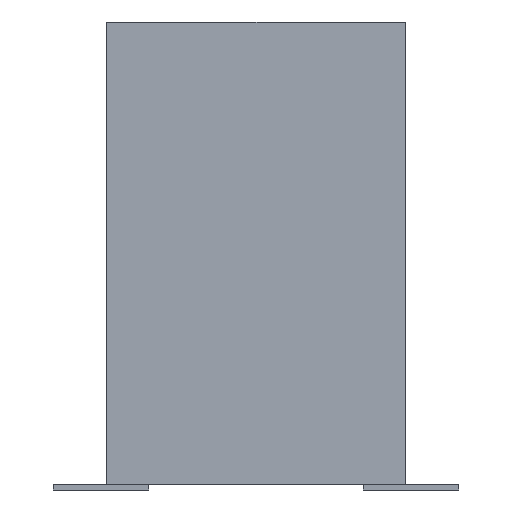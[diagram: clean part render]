
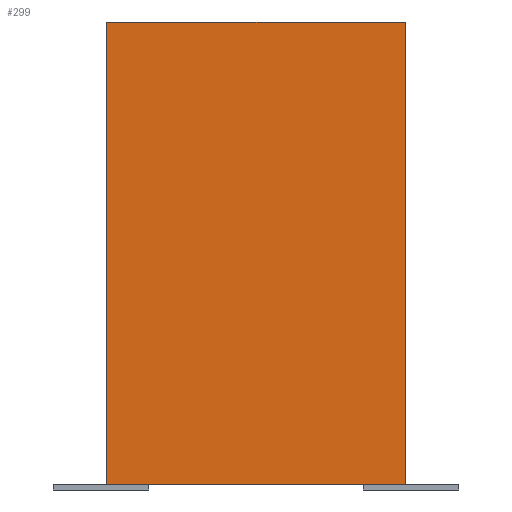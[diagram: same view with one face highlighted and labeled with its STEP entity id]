
A CAD part, left-side view. The second image highlights one B-rep face of the part: STEP entity #299.
In plain terms, the highlighted planar face has unit normal (-1, 0, 0).
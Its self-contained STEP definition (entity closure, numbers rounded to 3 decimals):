
#36 = EDGE_CURVE('',#37,#39,#41,.T.);
#37 = VERTEX_POINT('',#38);
#38 = CARTESIAN_POINT('',(-6.6,-2.5,0.));
#39 = VERTEX_POINT('',#40);
#40 = CARTESIAN_POINT('',(-6.6,-2.5,7.75));
#41 = SURFACE_CURVE('',#42,(#46,#58),.PCURVE_S1.);
#42 = LINE('',#43,#44);
#43 = CARTESIAN_POINT('',(-6.6,-2.5,0.));
#44 = VECTOR('',#45,1.);
#45 = DIRECTION('',(0.,0.,1.));
#46 = PCURVE('',#47,#52);
#47 = PLANE('',#48);
#48 = AXIS2_PLACEMENT_3D('',#49,#50,#51);
#49 = CARTESIAN_POINT('',(-6.6,-2.5,0.));
#50 = DIRECTION('',(0.,1.,0.));
#51 = DIRECTION('',(1.,0.,0.));
#52 = DEFINITIONAL_REPRESENTATION('',(#53),#57);
#53 = LINE('',#54,#55);
#54 = CARTESIAN_POINT('',(0.,0.));
#55 = VECTOR('',#56,1.);
#56 = DIRECTION('',(0.,-1.));
#57 = ( GEOMETRIC_REPRESENTATION_CONTEXT(2) 
PARAMETRIC_REPRESENTATION_CONTEXT() REPRESENTATION_CONTEXT('2D SPACE',''
  ) );
#58 = PCURVE('',#59,#64);
#59 = PLANE('',#60);
#60 = AXIS2_PLACEMENT_3D('',#61,#62,#63);
#61 = CARTESIAN_POINT('',(-6.6,2.5,0.));
#62 = DIRECTION('',(1.,0.,-0.));
#63 = DIRECTION('',(0.,-1.,0.));
#64 = DEFINITIONAL_REPRESENTATION('',(#65),#69);
#65 = LINE('',#66,#67);
#66 = CARTESIAN_POINT('',(5.,0.));
#67 = VECTOR('',#68,1.);
#68 = DIRECTION('',(0.,-1.));
#69 = ( GEOMETRIC_REPRESENTATION_CONTEXT(2) 
PARAMETRIC_REPRESENTATION_CONTEXT() REPRESENTATION_CONTEXT('2D SPACE',''
  ) );
#87 = PLANE('',#88);
#88 = AXIS2_PLACEMENT_3D('',#89,#90,#91);
#89 = CARTESIAN_POINT('',(0.,0.,7.75));
#90 = DIRECTION('',(0.,0.,1.));
#91 = DIRECTION('',(1.,0.,0.));
#141 = PLANE('',#142);
#142 = AXIS2_PLACEMENT_3D('',#143,#144,#145);
#143 = CARTESIAN_POINT('',(0.,0.,0.));
#144 = DIRECTION('',(0.,0.,1.));
#145 = DIRECTION('',(1.,0.,0.));
#196 = PLANE('',#197);
#197 = AXIS2_PLACEMENT_3D('',#198,#199,#200);
#198 = CARTESIAN_POINT('',(6.6,2.5,0.));
#199 = DIRECTION('',(0.,-1.,0.));
#200 = DIRECTION('',(-1.,0.,0.));
#234 = VERTEX_POINT('',#235);
#235 = CARTESIAN_POINT('',(-6.6,2.5,7.75));
#256 = EDGE_CURVE('',#257,#234,#259,.T.);
#257 = VERTEX_POINT('',#258);
#258 = CARTESIAN_POINT('',(-6.6,2.5,0.));
#259 = SURFACE_CURVE('',#260,(#264,#271),.PCURVE_S1.);
#260 = LINE('',#261,#262);
#261 = CARTESIAN_POINT('',(-6.6,2.5,0.));
#262 = VECTOR('',#263,1.);
#263 = DIRECTION('',(0.,0.,1.));
#264 = PCURVE('',#196,#265);
#265 = DEFINITIONAL_REPRESENTATION('',(#266),#270);
#266 = LINE('',#267,#268);
#267 = CARTESIAN_POINT('',(13.2,0.));
#268 = VECTOR('',#269,1.);
#269 = DIRECTION('',(0.,-1.));
#270 = ( GEOMETRIC_REPRESENTATION_CONTEXT(2) 
PARAMETRIC_REPRESENTATION_CONTEXT() REPRESENTATION_CONTEXT('2D SPACE',''
  ) );
#271 = PCURVE('',#59,#272);
#272 = DEFINITIONAL_REPRESENTATION('',(#273),#277);
#273 = LINE('',#274,#275);
#274 = CARTESIAN_POINT('',(0.,0.));
#275 = VECTOR('',#276,1.);
#276 = DIRECTION('',(0.,-1.));
#277 = ( GEOMETRIC_REPRESENTATION_CONTEXT(2) 
PARAMETRIC_REPRESENTATION_CONTEXT() REPRESENTATION_CONTEXT('2D SPACE',''
  ) );
#299 = ADVANCED_FACE('',(#300),#59,.F.);
#300 = FACE_BOUND('',#301,.F.);
#301 = EDGE_LOOP('',(#302,#303,#324,#325));
#302 = ORIENTED_EDGE('',*,*,#256,.T.);
#303 = ORIENTED_EDGE('',*,*,#304,.T.);
#304 = EDGE_CURVE('',#234,#39,#305,.T.);
#305 = SURFACE_CURVE('',#306,(#310,#317),.PCURVE_S1.);
#306 = LINE('',#307,#308);
#307 = CARTESIAN_POINT('',(-6.6,2.5,7.75));
#308 = VECTOR('',#309,1.);
#309 = DIRECTION('',(0.,-1.,0.));
#310 = PCURVE('',#59,#311);
#311 = DEFINITIONAL_REPRESENTATION('',(#312),#316);
#312 = LINE('',#313,#314);
#313 = CARTESIAN_POINT('',(0.,-7.75));
#314 = VECTOR('',#315,1.);
#315 = DIRECTION('',(1.,0.));
#316 = ( GEOMETRIC_REPRESENTATION_CONTEXT(2) 
PARAMETRIC_REPRESENTATION_CONTEXT() REPRESENTATION_CONTEXT('2D SPACE',''
  ) );
#317 = PCURVE('',#87,#318);
#318 = DEFINITIONAL_REPRESENTATION('',(#319),#323);
#319 = LINE('',#320,#321);
#320 = CARTESIAN_POINT('',(-6.6,2.5));
#321 = VECTOR('',#322,1.);
#322 = DIRECTION('',(0.,-1.));
#323 = ( GEOMETRIC_REPRESENTATION_CONTEXT(2) 
PARAMETRIC_REPRESENTATION_CONTEXT() REPRESENTATION_CONTEXT('2D SPACE',''
  ) );
#324 = ORIENTED_EDGE('',*,*,#36,.F.);
#325 = ORIENTED_EDGE('',*,*,#326,.F.);
#326 = EDGE_CURVE('',#257,#37,#327,.T.);
#327 = SURFACE_CURVE('',#328,(#332,#339),.PCURVE_S1.);
#328 = LINE('',#329,#330);
#329 = CARTESIAN_POINT('',(-6.6,2.5,0.));
#330 = VECTOR('',#331,1.);
#331 = DIRECTION('',(0.,-1.,0.));
#332 = PCURVE('',#59,#333);
#333 = DEFINITIONAL_REPRESENTATION('',(#334),#338);
#334 = LINE('',#335,#336);
#335 = CARTESIAN_POINT('',(0.,0.));
#336 = VECTOR('',#337,1.);
#337 = DIRECTION('',(1.,0.));
#338 = ( GEOMETRIC_REPRESENTATION_CONTEXT(2) 
PARAMETRIC_REPRESENTATION_CONTEXT() REPRESENTATION_CONTEXT('2D SPACE',''
  ) );
#339 = PCURVE('',#141,#340);
#340 = DEFINITIONAL_REPRESENTATION('',(#341),#345);
#341 = LINE('',#342,#343);
#342 = CARTESIAN_POINT('',(-6.6,2.5));
#343 = VECTOR('',#344,1.);
#344 = DIRECTION('',(0.,-1.));
#345 = ( GEOMETRIC_REPRESENTATION_CONTEXT(2) 
PARAMETRIC_REPRESENTATION_CONTEXT() REPRESENTATION_CONTEXT('2D SPACE',''
  ) );
